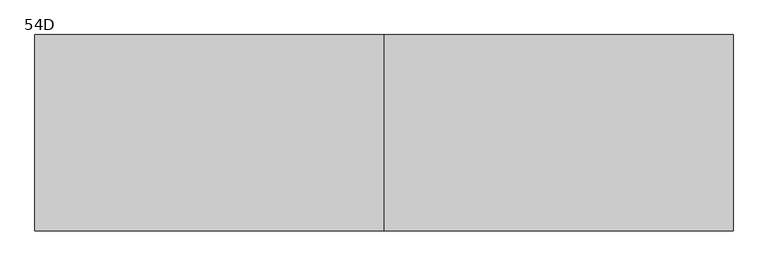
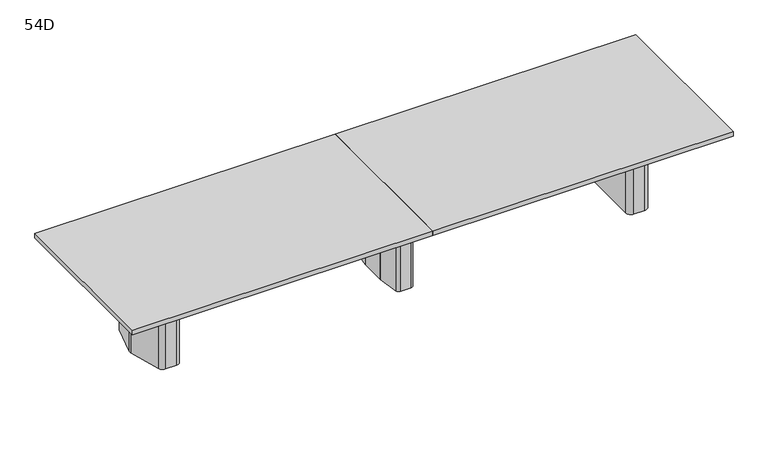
"""IFC4 building model written with IfcOpenShell, lengths in millimetres: furniture geometry, Coalesse_AM_Table_Conference_ETable2_Rectangular_16ft_ThreeBase : 54D."""

from ifc_helpers import new_model, si_unit, frame, origin, place, context, project, spatial, polyline, circle_curve, outline, extrude, source, transform, mapped, element, save
from ifc_brep_helpers import plane_surface, cylinder_surface, revolved_surface, advanced_brep


def furniture_54d_2968b999(model_context):
    return source(origin(), model_context, "Body", "SolidModel", [
        advanced_brep(
        [(35.71875, 206.375, 3.175), (10.31875, 231.775, 3.175), (-10.31875, 231.775, 3.175), (-35.71875, 206.375, 3.175), (-35.71875, -206.375, 3.175), (-10.31875, -231.775, 3.175), (10.31875, -231.775, 3.175), (35.71875, -206.375, 3.175), (-61.11875, 206.375, 0.0), (-10.31875, 257.175, 0.0), (10.31875, 257.175, 0.0), (61.11875, 206.375, 0.0), (61.11875, -206.375, 0.0), (10.31875, -257.175, 0.0), (-10.31875, -257.175, 0.0), (-61.11875, -206.375, 0.0), (-61.11875, -206.375, 3.175), (-61.11875, 206.375, 3.175), (-10.31875, -257.175, 3.175), (10.31875, -257.175, 3.175), (61.11875, -206.375, 3.175), (61.11875, 206.375, 3.175), (10.31875, 257.175, 3.175), (-10.31875, 257.175, 3.175), (-92.6215974, 106.2976848, 698.5), (-92.86875, 102.7629613, 698.5), (-92.86875, -102.7629613, 698.5), (-92.6215974, -106.2976848, 698.5), (-67.7988375, -282.9347235, 698.5), (-42.6459902, -304.8, 698.5), (42.6459902, -304.8, 698.5), (67.7988375, -282.9347235, 698.5), (92.6215974, -106.2976848, 698.5), (92.86875, -102.7629613, 698.5), (92.86875, 102.7629613, 698.5), (92.6215974, 106.2976848, 698.5), (67.7988375, 282.9347235, 698.5), (42.6459902, 304.8, 698.5), (-42.6459902, 304.8, 698.5), (-67.7988375, 282.9347235, 698.5), (10.31875, 231.775, 698.5), (35.71875, 206.375, 698.5), (35.71875, -206.375, 698.5), (10.31875, -231.775, 698.5), (-10.31875, -231.775, 698.5), (-35.71875, -206.375, 698.5), (-35.71875, 206.375, 698.5), (-10.31875, 231.775, 698.5), (-92.6215974, 106.2976848, 3.175), (-67.7988375, 282.9347235, 3.175), (-42.6459902, 304.8, 3.175), (42.6459902, 304.8, 3.175), (67.7988375, 282.9347235, 3.175), (92.6215974, 106.2976848, 3.175), (92.86875, 102.7629613, 3.175), (92.86875, -102.7629613, 3.175), (92.6215974, -106.2976848, 3.175), (67.7988375, -282.9347235, 3.175), (42.6459902, -304.8, 3.175), (-42.6459902, -304.8, 3.175), (-67.7988375, -282.9347235, 3.175), (-92.6215974, -106.2976848, 3.175), (-92.86875, -102.7629613, 3.175), (-92.86875, 102.7629613, 3.175)],
        [
            (0, 1, circle_curve(frame((10.31875, 206.375, 3.175), z_axis=(0.0, 0.0, 1.0), x_axis=(1.0, 0.0, 0.0)), 25.4)),
            (1, 2),
            (2, 3, circle_curve(frame((-10.31875, 206.375, 3.175), z_axis=(0.0, 0.0, 1.0), x_axis=(1.0, 0.0, 0.0)), 25.4)),
            (3, 4),
            (4, 5, circle_curve(frame((-10.31875, -206.375, 3.175), z_axis=(0.0, 0.0, 1.0), x_axis=(1.0, 0.0, 0.0)), 25.4)),
            (5, 6),
            (6, 7, circle_curve(frame((10.31875, -206.375, 3.175), z_axis=(0.0, 0.0, 1.0), x_axis=(1.0, 0.0, 0.0)), 25.4)),
            (7, 0),
            (8, 9, circle_curve(frame((-10.31875, 206.375, 0.0), z_axis=(0.0, 0.0, -1.0), x_axis=(1.0, 0.0, 0.0)), 50.8)),
            (9, 10),
            (10, 11, circle_curve(frame((10.31875, 206.375, 0.0), z_axis=(0.0, 0.0, -1.0), x_axis=(1.0, 0.0, 0.0)), 50.8)),
            (11, 12),
            (12, 13, circle_curve(frame((10.31875, -206.375, 0.0), z_axis=(0.0, 0.0, -1.0), x_axis=(1.0, 0.0, 0.0)), 50.8)),
            (13, 14),
            (14, 15, circle_curve(frame((-10.31875, -206.375, 0.0), z_axis=(0.0, 0.0, -1.0), x_axis=(1.0, 0.0, 0.0)), 50.8)),
            (15, 8),
            (15, 16),
            (16, 17),
            (17, 8),
            (14, 18),
            (18, 16, circle_curve(frame((-10.31875, -206.375, 3.175), z_axis=(0.0, 0.0, -1.0), x_axis=(1.0, 0.0, 0.0)), 50.8)),
            (13, 19),
            (19, 18),
            (12, 20),
            (20, 19, circle_curve(frame((10.31875, -206.375, 3.175), z_axis=(0.0, 0.0, -1.0), x_axis=(1.0, 0.0, 0.0)), 50.8)),
            (11, 21),
            (21, 20),
            (10, 22),
            (22, 21, circle_curve(frame((10.31875, 206.375, 3.175), z_axis=(0.0, 0.0, -1.0), x_axis=(1.0, 0.0, 0.0)), 50.8)),
            (9, 23),
            (23, 22),
            (17, 23, circle_curve(frame((-10.31875, 206.375, 3.175), z_axis=(0.0, 0.0, -1.0), x_axis=(1.0, 0.0, 0.0)), 50.8)),
            (24, 25, circle_curve(frame((-67.46875, 102.7629613, 698.5), z_axis=(0.0, 0.0, 1.0), x_axis=(1.0, 0.0, 0.0)), 25.4)),
            (25, 26),
            (26, 27, circle_curve(frame((-67.46875, -102.7629613, 698.5), z_axis=(0.0, 0.0, 1.0), x_axis=(1.0, 0.0, 0.0)), 25.4)),
            (27, 28),
            (28, 29, circle_curve(frame((-42.6459902, -279.4, 698.5), z_axis=(0.0, 0.0, 1.0), x_axis=(1.0, 0.0, 0.0)), 25.4)),
            (29, 30),
            (30, 31, circle_curve(frame((42.6459902, -279.4, 698.5), z_axis=(0.0, 0.0, 1.0), x_axis=(1.0, 0.0, 0.0)), 25.4)),
            (31, 32),
            (32, 33, circle_curve(frame((67.46875, -102.7629613, 698.5), z_axis=(0.0, 0.0, 1.0), x_axis=(1.0, 0.0, 0.0)), 25.4)),
            (33, 34),
            (34, 35, circle_curve(frame((67.46875, 102.7629613, 698.5), z_axis=(0.0, 0.0, 1.0), x_axis=(1.0, 0.0, 0.0)), 25.4)),
            (35, 36),
            (36, 37, circle_curve(frame((42.6459902, 279.4, 698.5), z_axis=(0.0, 0.0, 1.0), x_axis=(1.0, 0.0, 0.0)), 25.4)),
            (37, 38),
            (38, 39, circle_curve(frame((-42.6459902, 279.4, 698.5), z_axis=(0.0, 0.0, 1.0), x_axis=(1.0, 0.0, 0.0)), 25.4)),
            (39, 24),
            (40, 41, circle_curve(frame((10.31875, 206.375, 698.5), z_axis=(0.0, 0.0, -1.0), x_axis=(1.0, 0.0, 0.0)), 25.4)),
            (41, 42),
            (42, 43, circle_curve(frame((10.31875, -206.375, 698.5), z_axis=(0.0, 0.0, -1.0), x_axis=(1.0, 0.0, 0.0)), 25.4)),
            (43, 44),
            (44, 45, circle_curve(frame((-10.31875, -206.375, 698.5), z_axis=(0.0, 0.0, -1.0), x_axis=(1.0, 0.0, 0.0)), 25.4)),
            (45, 46),
            (46, 47, circle_curve(frame((-10.31875, 206.375, 698.5), z_axis=(0.0, 0.0, -1.0), x_axis=(1.0, 0.0, 0.0)), 25.4)),
            (47, 40),
            (48, 49),
            (49, 50, circle_curve(frame((-42.6459902, 279.4, 3.175), z_axis=(0.0, 0.0, -1.0), x_axis=(1.0, 0.0, 0.0)), 25.4)),
            (50, 51),
            (51, 52, circle_curve(frame((42.6459902, 279.4, 3.175), z_axis=(0.0, 0.0, -1.0), x_axis=(1.0, 0.0, 0.0)), 25.4)),
            (52, 53),
            (53, 54, circle_curve(frame((67.46875, 102.7629613, 3.175), z_axis=(0.0, 0.0, -1.0), x_axis=(1.0, 0.0, 0.0)), 25.4)),
            (54, 55),
            (55, 56, circle_curve(frame((67.46875, -102.7629613, 3.175), z_axis=(0.0, 0.0, -1.0), x_axis=(1.0, 0.0, 0.0)), 25.4)),
            (56, 57),
            (57, 58, circle_curve(frame((42.6459902, -279.4, 3.175), z_axis=(0.0, 0.0, -1.0), x_axis=(1.0, 0.0, 0.0)), 25.4)),
            (58, 59),
            (59, 60, circle_curve(frame((-42.6459902, -279.4, 3.175), z_axis=(0.0, 0.0, -1.0), x_axis=(1.0, 0.0, 0.0)), 25.4)),
            (60, 61),
            (61, 62, circle_curve(frame((-67.46875, -102.7629613, 3.175), z_axis=(0.0, 0.0, -1.0), x_axis=(1.0, 0.0, 0.0)), 25.4)),
            (62, 63),
            (63, 48, circle_curve(frame((-67.46875, 102.7629613, 3.175), z_axis=(0.0, 0.0, -1.0), x_axis=(1.0, 0.0, 0.0)), 25.4)),
            (24, 48),
            (63, 25),
            (62, 26),
            (61, 27),
            (60, 28),
            (59, 29),
            (58, 30),
            (57, 31),
            (56, 32),
            (55, 33),
            (54, 34),
            (53, 35),
            (52, 36),
            (51, 37),
            (50, 38),
            (49, 39),
            (40, 1),
            (0, 41),
            (7, 42),
            (6, 43),
            (5, 44),
            (4, 45),
            (3, 46),
            (2, 47),
        ],
        [
            plane_surface(frame((-61.11875, -206.375, 3.175), z_axis=(0.0, 0.0, 1.0), x_axis=(0.0, -1.0, 0.0))),
            plane_surface(frame((-61.11875, -206.375, 0.0), z_axis=(0.0, 0.0, -1.0), x_axis=(0.0, 1.0, 0.0))),
            plane_surface(frame((-61.11875, 206.375, 3.175), z_axis=(-1.0, 0.0, 0.0), x_axis=(0.0, 0.0, -1.0))),
            cylinder_surface(frame((-10.31875, -206.375, 0.0), z_axis=(0.0, 0.0, 1.0), x_axis=(1.0, 0.0, 0.0)), 50.8),
            plane_surface(frame((-10.31875, -257.175, 3.175), z_axis=(0.0, -1.0, 0.0), x_axis=(0.0, 0.0, -1.0))),
            cylinder_surface(frame((10.31875, -206.375, 0.0), z_axis=(0.0, 0.0, 1.0), x_axis=(1.0, 0.0, 0.0)), 50.8),
            plane_surface(frame((61.11875, -206.375, 3.175), z_axis=(1.0, 0.0, 0.0), x_axis=(0.0, 0.0, -1.0))),
            cylinder_surface(frame((10.31875, 206.375, 0.0), z_axis=(0.0, 0.0, 1.0), x_axis=(1.0, 0.0, 0.0)), 50.8),
            plane_surface(frame((10.31875, 257.175, 3.175), z_axis=(0.0, 1.0, 0.0), x_axis=(0.0, 0.0, -1.0))),
            cylinder_surface(frame((-10.31875, 206.375, 0.0), z_axis=(0.0, 0.0, 1.0), x_axis=(1.0, 0.0, 0.0)), 50.8),
            plane_surface(frame((-42.06875, 102.7629613, 698.5), z_axis=(0.0, 0.0, 1.0), x_axis=(0.0, 1.0, 0.0))),
            plane_surface(frame((-42.06875, 102.7629613, 3.175), z_axis=(0.0, 0.0, -1.0), x_axis=(0.0, -1.0, 0.0))),
            cylinder_surface(frame((-67.46875, 102.7629613, 3.175), z_axis=(0.0, 0.0, 1.0), x_axis=(1.0, 0.0, 0.0)), 25.4),
            plane_surface(frame((-92.86875, 102.7629613, 698.5), z_axis=(-1.0, 0.0, 0.0), x_axis=(0.0, 0.0, -1.0))),
            cylinder_surface(frame((-67.46875, -102.7629613, 3.175), z_axis=(0.0, 0.0, 1.0), x_axis=(1.0, 0.0, 0.0)), 25.4),
            plane_surface(frame((-92.6215974, -106.2976848, 698.5), z_axis=(-0.9902695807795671, -0.13916234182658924, 0.0), x_axis=(0.0, 0.0, -1.0))),
            cylinder_surface(frame((-42.6459902, -279.4, 3.175), z_axis=(0.0, 0.0, 1.0), x_axis=(1.0, 0.0, 0.0)), 25.4),
            plane_surface(frame((-42.6459902, -304.8, 698.5), z_axis=(0.0, -1.0, 0.0), x_axis=(0.0, 0.0, -1.0))),
            cylinder_surface(frame((42.6459902, -279.4, 3.175), z_axis=(0.0, 0.0, 1.0), x_axis=(1.0, 0.0, 0.0)), 25.4),
            plane_surface(frame((67.7988375, -282.9347235, 698.5), z_axis=(0.9902695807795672, -0.13916234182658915, 0.0), x_axis=(0.0, 0.0, -1.0))),
            cylinder_surface(frame((67.46875, -102.7629613, 3.175), z_axis=(0.0, 0.0, 1.0), x_axis=(1.0, 0.0, 0.0)), 25.4),
            plane_surface(frame((92.86875, -102.7629613, 698.5), z_axis=(1.0, 0.0, 0.0), x_axis=(0.0, 0.0, -1.0))),
            cylinder_surface(frame((67.46875, 102.7629613, 3.175), z_axis=(0.0, 0.0, 1.0), x_axis=(1.0, 0.0, 0.0)), 25.4),
            plane_surface(frame((92.6215974, 106.2976848, 698.5), z_axis=(0.9902695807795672, 0.1391623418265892, 0.0), x_axis=(0.0, 0.0, -1.0))),
            cylinder_surface(frame((42.6459902, 279.4, 3.175), z_axis=(0.0, 0.0, 1.0), x_axis=(1.0, 0.0, 0.0)), 25.4),
            plane_surface(frame((42.6459902, 304.8, 698.5), z_axis=(0.0, 1.0, 0.0), x_axis=(0.0, 0.0, -1.0))),
            cylinder_surface(frame((-42.6459902, 279.4, 3.175), z_axis=(0.0, 0.0, 1.0), x_axis=(1.0, 0.0, 0.0)), 25.4),
            plane_surface(frame((-67.7988375, 282.9347235, 698.5), z_axis=(-0.9902695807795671, 0.13916234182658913, 0.0), x_axis=(0.0, 0.0, -1.0))),
            revolved_surface(polyline([(35.71875, 206.375, 3.175), (35.71875, 206.375, 698.5)]), (10.31875, 206.375, 0.0), (0.0, 0.0, -1.0)),
            plane_surface(frame((35.71875, 206.375, 698.5), z_axis=(-1.0, 0.0, 0.0), x_axis=(0.0, 0.0, -1.0))),
            revolved_surface(polyline([(35.71875, -206.375, 3.175), (35.71875, -206.375, 698.5)]), (10.31875, -206.375, 0.0), (0.0, 0.0, -1.0)),
            plane_surface(frame((10.31875, -231.775, 698.5), z_axis=(0.0, 1.0, 0.0), x_axis=(0.0, 0.0, -1.0))),
            revolved_surface(polyline([(15.081249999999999, -206.375, 3.175), (15.081249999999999, -206.375, 698.5)]), (-10.31875, -206.375, 0.0), (0.0, 0.0, -1.0)),
            plane_surface(frame((-35.71875, -206.375, 698.5), z_axis=(1.0, 0.0, 0.0), x_axis=(0.0, 0.0, -1.0))),
            revolved_surface(polyline([(15.081249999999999, 206.375, 3.175), (15.081249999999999, 206.375, 698.5)]), (-10.31875, 206.375, 0.0), (0.0, 0.0, -1.0)),
            plane_surface(frame((-10.31875, 231.775, 698.5), z_axis=(0.0, -1.0, 0.0), x_axis=(0.0, 0.0, -1.0))),
        ],
        [
            (0, [[1, 2, 3, 4, 5, 6, 7, 8]]),
            (1, [[9, 10, 11, 12, 13, 14, 15, 16]]),
            (2, [[-16, 17, 18, 19]]),
            (3, [[-15, 20, 21, -17]]),
            (4, [[-14, 22, 23, -20]]),
            (5, [[-13, 24, 25, -22]]),
            (6, [[-12, 26, 27, -24]]),
            (7, [[-11, 28, 29, -26]]),
            (8, [[-10, 30, 31, -28]]),
            (9, [[-9, -19, 32, -30]]),
            (10, [[33, 34, 35, 36, 37, 38, 39, 40, 41, 42, 43, 44, 45, 46, 47, 48], [49, 50, 51, 52, 53, 54, 55, 56]]),
            (11, [[57, 58, 59, 60, 61, 62, 63, 64, 65, 66, 67, 68, 69, 70, 71, 72], [-18, -21, -23, -25, -27, -29, -31, -32]]),
            (12, [[-33, 73, -72, 74]]),
            (13, [[-34, -74, -71, 75]]),
            (14, [[-35, -75, -70, 76]]),
            (15, [[-36, -76, -69, 77]]),
            (16, [[-37, -77, -68, 78]]),
            (17, [[-38, -78, -67, 79]]),
            (18, [[-39, -79, -66, 80]]),
            (19, [[-40, -80, -65, 81]]),
            (20, [[-41, -81, -64, 82]]),
            (21, [[-42, -82, -63, 83]]),
            (22, [[-43, -83, -62, 84]]),
            (23, [[-44, -84, -61, 85]]),
            (24, [[-45, -85, -60, 86]]),
            (25, [[-46, -86, -59, 87]]),
            (26, [[-47, -87, -58, 88]]),
            (27, [[-48, -88, -57, -73]]),
            (28, [[-49, 89, -1, 90]]),
            (29, [[-50, -90, -8, 91]]),
            (30, [[-51, -91, -7, 92]]),
            (31, [[-52, -92, -6, 93]]),
            (32, [[-53, -93, -5, 94]]),
            (33, [[-54, -94, -4, 95]]),
            (34, [[-55, -95, -3, 96]]),
            (35, [[-56, -96, -2, -89]]),
        ],
    ),
        advanced_brep(
        [(1979.824548, 274.2093613, 698.5), (1939.9579246, 304.8, 698.5), (1851.025, 304.8, 698.5), (1809.75, 263.525, 698.5), (1809.75, -263.525, 698.5), (1851.025, -304.8, 698.5), (1939.9579246, -304.8, 698.5), (1979.824548, -274.2093613, 698.5), (2050.4503901, -10.6333708, 698.5), (2050.4503901, 10.6333708, 698.5), (1847.85, -206.375, 698.5), (1847.85, 206.375, 698.5), (1873.25, 231.775, 698.5), (1932.2608422, 231.775, 698.5), (1956.795338, 212.9490792, 698.5), (1995.4875, 68.54974, 698.5), (1995.4875, -68.54974, 698.5), (1956.795338, -212.9490792, 698.5), (1932.2608422, -231.775, 698.5), (1873.25, -231.775, 698.5), (1979.824548, 274.2093613, 3.175), (2050.4503901, 10.6333708, 3.175), (2050.4503901, -10.6333708, 3.175), (1979.824548, -274.2093613, 3.175), (1939.9579246, -304.8, 3.175), (1851.025, -304.8, 3.175), (1809.75, -263.525, 3.175), (1809.75, 263.525, 3.175), (1851.025, 304.8, 3.175), (1939.9579246, 304.8, 3.175), (1969.0625859, 216.2361187, 3.175), (1932.2608422, 244.475, 3.175), (1873.25, 244.475, 3.175), (1835.15, 206.375, 3.175), (1835.15, -206.375, 3.175), (1873.25, -244.475, 3.175), (1932.2608422, -244.475, 3.175), (1969.0625859, -216.2361187, 3.175), (2008.1875, -70.2217466, 3.175), (2008.1875, 70.2217466, 3.175), (1873.25, -231.775, 3.175), (1847.85, -206.375, 3.175), (1932.2608422, -231.775, 3.175), (1956.795338, -212.9490792, 3.175), (1995.4875, -68.54974, 3.175), (1995.4875, 68.54974, 3.175), (1956.795338, 212.9490792, 3.175), (1932.2608422, 231.775, 3.175), (1873.25, 231.775, 3.175), (1847.85, 206.375, 3.175), (1969.0625859, 216.2361187, 0.0), (2008.1875, 70.2217466, 0.0), (2008.1875, -70.2217466, 0.0), (1969.0625859, -216.2361187, 0.0), (1932.2608422, -244.475, 0.0), (1873.25, -244.475, 0.0), (1835.15, -206.375, 0.0), (1835.15, 206.375, 0.0), (1873.25, 244.475, 0.0), (1932.2608422, 244.475, 0.0)],
        [
            (0, 1, circle_curve(frame((1939.9579246, 263.5270004, 698.5), z_axis=(0.0, 0.0, 1.0), x_axis=(-1.0, 0.0, 0.0)), 41.2729996)),
            (1, 2),
            (2, 3, circle_curve(frame((1851.025, 263.525, 698.5), z_axis=(0.0, 0.0, 1.0), x_axis=(-1.0, 0.0, 0.0)), 41.275)),
            (3, 4),
            (4, 5, circle_curve(frame((1851.025, -263.525, 698.5), z_axis=(0.0, 0.0, 1.0), x_axis=(-1.0, 0.0, 0.0)), 41.275)),
            (5, 6),
            (6, 7, circle_curve(frame((1939.9579246, -263.5270004, 698.5), z_axis=(0.0, 0.0, 1.0), x_axis=(-1.0, 0.0, 0.0)), 41.2729996)),
            (7, 8),
            (8, 9, circle_curve(frame((2010.7665979, 0.0, 698.5), z_axis=(0.0, 0.0, 1.0), x_axis=(-1.0, 0.0, 0.0)), 41.0837187)),
            (9, 0),
            (10, 11),
            (11, 12, circle_curve(frame((1873.25, 206.375, 698.5), z_axis=(0.0, 0.0, -1.0), x_axis=(-1.0, 0.0, 0.0)), 25.4)),
            (12, 13),
            (13, 14, circle_curve(frame((1932.2608422, 206.375, 698.5), z_axis=(0.0, 0.0, -1.0), x_axis=(-1.0, 0.0, 0.0)), 25.4)),
            (14, 15),
            (15, 16),
            (16, 17),
            (17, 18, circle_curve(frame((1932.2608422, -206.375, 698.5), z_axis=(0.0, 0.0, -1.0), x_axis=(-1.0, 0.0, 0.0)), 25.4)),
            (18, 19),
            (19, 10, circle_curve(frame((1873.25, -206.375, 698.5), z_axis=(0.0, 0.0, -1.0), x_axis=(-1.0, 0.0, 0.0)), 25.4)),
            (20, 21),
            (21, 22, circle_curve(frame((2010.7665979, 0.0, 3.175), z_axis=(0.0, 0.0, -1.0), x_axis=(-1.0, 0.0, 0.0)), 41.0837187)),
            (22, 23),
            (23, 24, circle_curve(frame((1939.9579246, -263.5270004, 3.175), z_axis=(0.0, 0.0, -1.0), x_axis=(-1.0, 0.0, 0.0)), 41.2729996)),
            (24, 25),
            (25, 26, circle_curve(frame((1851.025, -263.525, 3.175), z_axis=(0.0, 0.0, -1.0), x_axis=(-1.0, 0.0, 0.0)), 41.275)),
            (26, 27),
            (27, 28, circle_curve(frame((1851.025, 263.525, 3.175), z_axis=(0.0, 0.0, -1.0), x_axis=(-1.0, 0.0, 0.0)), 41.275)),
            (28, 29),
            (29, 20, circle_curve(frame((1939.9579246, 263.5270004, 3.175), z_axis=(0.0, 0.0, -1.0), x_axis=(-1.0, 0.0, 0.0)), 41.2729996)),
            (30, 31, circle_curve(frame((1932.2608422, 206.375, 3.175), z_axis=(0.0, 0.0, 1.0), x_axis=(-1.0, 0.0, 0.0)), 38.1)),
            (31, 32),
            (32, 33, circle_curve(frame((1873.25, 206.375, 3.175), z_axis=(0.0, 0.0, 1.0), x_axis=(-1.0, 0.0, 0.0)), 38.1)),
            (33, 34),
            (34, 35, circle_curve(frame((1873.25, -206.375, 3.175), z_axis=(0.0, 0.0, 1.0), x_axis=(-1.0, 0.0, 0.0)), 38.1)),
            (35, 36),
            (36, 37, circle_curve(frame((1932.2608422, -206.375, 3.175), z_axis=(0.0, 0.0, 1.0), x_axis=(-1.0, 0.0, 0.0)), 38.1)),
            (37, 38),
            (38, 39),
            (39, 30),
            (9, 21),
            (20, 0),
            (8, 22),
            (7, 23),
            (6, 24),
            (5, 25),
            (4, 26),
            (3, 27),
            (2, 28),
            (1, 29),
            (19, 40),
            (40, 41, circle_curve(frame((1873.25, -206.375, 3.175), z_axis=(0.0, 0.0, -1.0), x_axis=(-1.0, 0.0, 0.0)), 25.4)),
            (41, 10),
            (18, 42),
            (42, 40),
            (17, 43),
            (43, 42, circle_curve(frame((1932.2608422, -206.375, 3.175), z_axis=(0.0, 0.0, -1.0), x_axis=(-1.0, 0.0, 0.0)), 25.4)),
            (16, 44),
            (44, 43),
            (15, 45),
            (45, 44),
            (14, 46),
            (46, 45),
            (13, 47),
            (47, 46, circle_curve(frame((1932.2608422, 206.375, 3.175), z_axis=(0.0, 0.0, -1.0), x_axis=(-1.0, 0.0, 0.0)), 25.4)),
            (12, 48),
            (48, 47),
            (11, 49),
            (49, 48, circle_curve(frame((1873.25, 206.375, 3.175), z_axis=(0.0, 0.0, -1.0), x_axis=(-1.0, 0.0, 0.0)), 25.4)),
            (41, 49),
            (50, 51),
            (51, 52),
            (52, 53),
            (53, 54, circle_curve(frame((1932.2608422, -206.375, 0.0), z_axis=(0.0, 0.0, -1.0), x_axis=(-1.0, 0.0, 0.0)), 38.1)),
            (54, 55),
            (55, 56, circle_curve(frame((1873.25, -206.375, 0.0), z_axis=(0.0, 0.0, -1.0), x_axis=(-1.0, 0.0, 0.0)), 38.1)),
            (56, 57),
            (57, 58, circle_curve(frame((1873.25, 206.375, 0.0), z_axis=(0.0, 0.0, -1.0), x_axis=(-1.0, 0.0, 0.0)), 38.1)),
            (58, 59),
            (59, 50, circle_curve(frame((1932.2608422, 206.375, 0.0), z_axis=(0.0, 0.0, -1.0), x_axis=(-1.0, 0.0, 0.0)), 38.1)),
            (50, 30),
            (39, 51),
            (38, 52),
            (37, 53),
            (36, 54),
            (35, 55),
            (34, 56),
            (33, 57),
            (32, 58),
            (31, 59),
        ],
        [
            plane_surface(frame((2050.4374275, 10.6817473, 698.5), z_axis=(0.0, 0.0, 1.0000000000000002), x_axis=(0.25882201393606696, -0.9659250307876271, 0.0))),
            plane_surface(frame((2050.4374275, 10.6817473, 3.175), z_axis=(0.0, 0.0, -1.0000000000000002), x_axis=(-0.25882201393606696, 0.9659250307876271, 0.0))),
            plane_surface(frame((1979.824548, 274.2093613, 698.5), z_axis=(0.9659250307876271, 0.25882201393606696, 0.0), x_axis=(0.0, 0.0, -1.0))),
            cylinder_surface(frame((2010.7665979, 0.0, 3.175), z_axis=(0.0, 0.0, 1.0), x_axis=(-1.0, 0.0, 0.0)), 41.0837187),
            plane_surface(frame((2050.4503901, -10.6333708, 698.5), z_axis=(0.9659250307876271, -0.2588220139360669, 0.0), x_axis=(0.0, 0.0, -1.0))),
            cylinder_surface(frame((1939.9579246, -263.5270004, 3.175), z_axis=(0.0, 0.0, 1.0), x_axis=(-1.0, 0.0, 0.0)), 41.2729996),
            plane_surface(frame((1939.9579246, -304.8, 698.5), z_axis=(0.0, -1.0, 0.0), x_axis=(0.0, 0.0, -1.0))),
            cylinder_surface(frame((1851.025, -263.525, 3.175), z_axis=(0.0, 0.0, 1.0), x_axis=(-1.0, 0.0, 0.0)), 41.275),
            plane_surface(frame((1809.75, -263.525, 698.5), z_axis=(-1.0, 0.0, 0.0), x_axis=(0.0, 0.0, -1.0))),
            cylinder_surface(frame((1851.025, 263.525, 3.175), z_axis=(0.0, 0.0, 1.0), x_axis=(-1.0, 0.0, 0.0)), 41.275),
            plane_surface(frame((1851.025, 304.8, 698.5), z_axis=(0.0, 1.0, 0.0), x_axis=(0.0, 0.0, -1.0))),
            cylinder_surface(frame((1939.9579246, 263.5270004, 3.175), z_axis=(0.0, 0.0, 1.0), x_axis=(-1.0, 0.0, 0.0)), 41.2729996),
            revolved_surface(polyline([(1847.85, -206.375, 3.175), (1847.85, -206.375, 698.5)]), (1873.25, -206.375, 0.0), (0.0, 0.0, -1.0)),
            plane_surface(frame((1873.25, -231.775, 698.5), z_axis=(0.0, 1.0, 0.0), x_axis=(0.0, 0.0, -1.0))),
            revolved_surface(polyline([(1906.8608422, -206.375, 3.175), (1906.8608422, -206.375, 698.5)]), (1932.2608422, -206.375, 0.0), (0.0, 0.0, -1.0)),
            plane_surface(frame((1956.795338, -212.9490792, 698.5), z_axis=(-0.9659250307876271, 0.2588220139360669, 0.0), x_axis=(0.0, 0.0, -1.0))),
            plane_surface(frame((1995.4875, -68.54974, 698.5), z_axis=(-1.0, 0.0, 0.0), x_axis=(0.0, 0.0, -1.0))),
            plane_surface(frame((1995.4875, 68.54974, 698.5), z_axis=(-0.9659250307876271, -0.25882201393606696, 0.0), x_axis=(0.0, 0.0, -1.0))),
            revolved_surface(polyline([(1906.8608422, 206.375, 3.175), (1906.8608422, 206.375, 698.5)]), (1932.2608422, 206.375, 0.0), (0.0, 0.0, -1.0)),
            plane_surface(frame((1932.2608422, 231.775, 698.5), z_axis=(0.0, -1.0, 0.0), x_axis=(0.0, 0.0, -1.0))),
            revolved_surface(polyline([(1847.85, 206.375, 3.175), (1847.85, 206.375, 698.5)]), (1873.25, 206.375, 0.0), (0.0, 0.0, -1.0)),
            plane_surface(frame((1847.85, 206.375, 698.5), z_axis=(1.0, 0.0, 0.0), x_axis=(0.0, 0.0, -1.0))),
            plane_surface(frame((2007.7547479, 71.8367796, 3.175), z_axis=(0.0, 0.0, 1.0), x_axis=(0.25882201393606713, -0.965925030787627, 0.0))),
            plane_surface(frame((2007.7547479, 71.8367796, 0.0), z_axis=(0.0, 0.0, -1.0), x_axis=(-0.25882201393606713, 0.965925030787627, 0.0))),
            plane_surface(frame((1969.0625859, 216.2361187, 3.175), z_axis=(0.965925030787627, 0.25882201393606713, 0.0), x_axis=(0.0, 0.0, -1.0))),
            plane_surface(frame((2008.1875, 70.2217466, 3.175), z_axis=(1.0, 0.0, 0.0), x_axis=(0.0, 0.0, -1.0))),
            plane_surface(frame((2008.1875, -70.2217466, 3.175), z_axis=(0.9659250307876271, -0.2588220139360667, 0.0), x_axis=(0.0, 0.0, -1.0))),
            cylinder_surface(frame((1932.2608422, -206.375, 0.0), z_axis=(0.0, 0.0, 1.0), x_axis=(-1.0, 0.0, 0.0)), 38.1),
            plane_surface(frame((1932.2608422, -244.475, 3.175), z_axis=(0.0, -1.0, 0.0), x_axis=(0.0, 0.0, -1.0))),
            cylinder_surface(frame((1873.25, -206.375, 0.0), z_axis=(0.0, 0.0, 1.0), x_axis=(-1.0, 0.0, 0.0)), 38.1),
            plane_surface(frame((1835.15, -206.375, 3.175), z_axis=(-1.0, 0.0, 0.0), x_axis=(0.0, 0.0, -1.0))),
            cylinder_surface(frame((1873.25, 206.375, 0.0), z_axis=(0.0, 0.0, 1.0), x_axis=(-1.0, 0.0, 0.0)), 38.1),
            plane_surface(frame((1873.25, 244.475, 3.175), z_axis=(0.0, 1.0, 0.0), x_axis=(0.0, 0.0, -1.0))),
            cylinder_surface(frame((1932.2608422, 206.375, 0.0), z_axis=(0.0, 0.0, 1.0), x_axis=(-1.0, 0.0, 0.0)), 38.1),
        ],
        [
            (0, [[1, 2, 3, 4, 5, 6, 7, 8, 9, 10], [11, 12, 13, 14, 15, 16, 17, 18, 19, 20]]),
            (1, [[21, 22, 23, 24, 25, 26, 27, 28, 29, 30], [31, 32, 33, 34, 35, 36, 37, 38, 39, 40]]),
            (2, [[41, -21, 42, -10]]),
            (3, [[43, -22, -41, -9]]),
            (4, [[44, -23, -43, -8]]),
            (5, [[45, -24, -44, -7]]),
            (6, [[46, -25, -45, -6]]),
            (7, [[47, -26, -46, -5]]),
            (8, [[48, -27, -47, -4]]),
            (9, [[49, -28, -48, -3]]),
            (10, [[50, -29, -49, -2]]),
            (11, [[-42, -30, -50, -1]]),
            (12, [[51, 52, 53, -20]]),
            (13, [[54, 55, -51, -19]]),
            (14, [[56, 57, -54, -18]]),
            (15, [[58, 59, -56, -17]]),
            (16, [[60, 61, -58, -16]]),
            (17, [[62, 63, -60, -15]]),
            (18, [[64, 65, -62, -14]]),
            (19, [[66, 67, -64, -13]]),
            (20, [[68, 69, -66, -12]]),
            (21, [[-53, 70, -68, -11]]),
            (22, [[-55, -57, -59, -61, -63, -65, -67, -69, -70, -52]]),
            (23, [[71, 72, 73, 74, 75, 76, 77, 78, 79, 80]]),
            (24, [[81, -40, 82, -71]]),
            (25, [[-82, -39, 83, -72]]),
            (26, [[-83, -38, 84, -73]]),
            (27, [[-84, -37, 85, -74]]),
            (28, [[-85, -36, 86, -75]]),
            (29, [[-86, -35, 87, -76]]),
            (30, [[-87, -34, 88, -77]]),
            (31, [[-88, -33, 89, -78]]),
            (32, [[-89, -32, 90, -79]]),
            (33, [[-90, -31, -81, -80]]),
        ],
    ),
        advanced_brep(
        [(-1990.937048, 274.2093613, 698.5), (-2061.5628901, 10.6333708, 698.5), (-2061.5628901, -10.6333708, 698.5), (-1990.937048, -274.2093613, 698.5), (-1951.0704246, -304.8, 698.5), (-1862.1375, -304.8, 698.5), (-1820.8625, -263.525, 698.5), (-1820.8625, 263.525, 698.5), (-1862.1375, 304.8, 698.5), (-1951.0704246, 304.8, 698.5), (-1858.9625, -206.375, 698.5), (-1884.3625, -231.775, 698.5), (-1943.3733422, -231.775, 698.5), (-1967.907838, -212.9490792, 698.5), (-2006.6, -68.54974, 698.5), (-2006.6, 68.54974, 698.5), (-1967.907838, 212.9490792, 698.5), (-1943.3733422, 231.775, 698.5), (-1884.3625, 231.775, 698.5), (-1858.9625, 206.375, 698.5), (-1990.937048, 274.2093613, 3.175), (-1951.0704246, 304.8, 3.175), (-1862.1375, 304.8, 3.175), (-1820.8625, 263.525, 3.175), (-1820.8625, -263.525, 3.175), (-1862.1375, -304.8, 3.175), (-1951.0704246, -304.8, 3.175), (-1990.937048, -274.2093613, 3.175), (-2061.5628901, -10.6333708, 3.175), (-2061.5628901, 10.6333708, 3.175), (-1980.1750859, 216.2361187, 3.175), (-2019.3, 70.2217466, 3.175), (-2019.3, -70.2217466, 3.175), (-1980.1750859, -216.2361187, 3.175), (-1943.3733422, -244.475, 3.175), (-1884.3625, -244.475, 3.175), (-1846.2625, -206.375, 3.175), (-1846.2625, 206.375, 3.175), (-1884.3625, 244.475, 3.175), (-1943.3733422, 244.475, 3.175), (-1858.9625, -206.375, 3.175), (-1884.3625, -231.775, 3.175), (-1943.3733422, -231.775, 3.175), (-1967.907838, -212.9490792, 3.175), (-2006.6, -68.54974, 3.175), (-2006.6, 68.54974, 3.175), (-1967.907838, 212.9490792, 3.175), (-1943.3733422, 231.775, 3.175), (-1884.3625, 231.775, 3.175), (-1858.9625, 206.375, 3.175), (-1980.1750859, 216.2361187, 0.0), (-1943.3733422, 244.475, 0.0), (-1884.3625, 244.475, 0.0), (-1846.2625, 206.375, 0.0), (-1846.2625, -206.375, 0.0), (-1884.3625, -244.475, 0.0), (-1943.3733422, -244.475, 0.0), (-1980.1750859, -216.2361187, 0.0), (-2019.3, -70.2217466, 0.0), (-2019.3, 70.2217466, 0.0)],
        [
            (0, 1),
            (1, 2, circle_curve(frame((-2021.8790979, 0.0, 698.5), z_axis=(0.0, 0.0, 1.0), x_axis=(1.0, 0.0, 0.0)), 41.0837187)),
            (2, 3),
            (3, 4, circle_curve(frame((-1951.0704246, -263.5270004, 698.5), z_axis=(0.0, 0.0, 1.0), x_axis=(1.0, 0.0, 0.0)), 41.2729996)),
            (4, 5),
            (5, 6, circle_curve(frame((-1862.1375, -263.525, 698.5), z_axis=(0.0, 0.0, 1.0), x_axis=(1.0, 0.0, 0.0)), 41.275)),
            (6, 7),
            (7, 8, circle_curve(frame((-1862.1375, 263.525, 698.5), z_axis=(0.0, 0.0, 1.0), x_axis=(1.0, 0.0, 0.0)), 41.275)),
            (8, 9),
            (9, 0, circle_curve(frame((-1951.0704246, 263.5270004, 698.5), z_axis=(0.0, 0.0, 1.0), x_axis=(1.0, 0.0, 0.0)), 41.2729996)),
            (10, 11, circle_curve(frame((-1884.3625, -206.375, 698.5), z_axis=(0.0, 0.0, -1.0), x_axis=(1.0, 0.0, 0.0)), 25.4)),
            (11, 12),
            (12, 13, circle_curve(frame((-1943.3733422, -206.375, 698.5), z_axis=(0.0, 0.0, -1.0), x_axis=(1.0, 0.0, 0.0)), 25.4)),
            (13, 14),
            (14, 15),
            (15, 16),
            (16, 17, circle_curve(frame((-1943.3733422, 206.375, 698.5), z_axis=(0.0, 0.0, -1.0), x_axis=(1.0, 0.0, 0.0)), 25.4)),
            (17, 18),
            (18, 19, circle_curve(frame((-1884.3625, 206.375, 698.5), z_axis=(0.0, 0.0, -1.0), x_axis=(1.0, 0.0, 0.0)), 25.4)),
            (19, 10),
            (20, 21, circle_curve(frame((-1951.0704246, 263.5270004, 3.175), z_axis=(0.0, 0.0, -1.0), x_axis=(1.0, 0.0, 0.0)), 41.2729996)),
            (21, 22),
            (22, 23, circle_curve(frame((-1862.1375, 263.525, 3.175), z_axis=(0.0, 0.0, -1.0), x_axis=(1.0, 0.0, 0.0)), 41.275)),
            (23, 24),
            (24, 25, circle_curve(frame((-1862.1375, -263.525, 3.175), z_axis=(0.0, 0.0, -1.0), x_axis=(1.0, 0.0, 0.0)), 41.275)),
            (25, 26),
            (26, 27, circle_curve(frame((-1951.0704246, -263.5270004, 3.175), z_axis=(0.0, 0.0, -1.0), x_axis=(1.0, 0.0, 0.0)), 41.2729996)),
            (27, 28),
            (28, 29, circle_curve(frame((-2021.8790979, 0.0, 3.175), z_axis=(0.0, 0.0, -1.0), x_axis=(1.0, 0.0, 0.0)), 41.0837187)),
            (29, 20),
            (30, 31),
            (31, 32),
            (32, 33),
            (33, 34, circle_curve(frame((-1943.3733422, -206.375, 3.175), z_axis=(0.0, 0.0, 1.0), x_axis=(1.0, 0.0, 0.0)), 38.1)),
            (34, 35),
            (35, 36, circle_curve(frame((-1884.3625, -206.375, 3.175), z_axis=(0.0, 0.0, 1.0), x_axis=(1.0, 0.0, 0.0)), 38.1)),
            (36, 37),
            (37, 38, circle_curve(frame((-1884.3625, 206.375, 3.175), z_axis=(0.0, 0.0, 1.0), x_axis=(1.0, 0.0, 0.0)), 38.1)),
            (38, 39),
            (39, 30, circle_curve(frame((-1943.3733422, 206.375, 3.175), z_axis=(0.0, 0.0, 1.0), x_axis=(1.0, 0.0, 0.0)), 38.1)),
            (0, 20),
            (29, 1),
            (28, 2),
            (27, 3),
            (26, 4),
            (25, 5),
            (24, 6),
            (23, 7),
            (22, 8),
            (21, 9),
            (10, 40),
            (40, 41, circle_curve(frame((-1884.3625, -206.375, 3.175), z_axis=(0.0, 0.0, -1.0), x_axis=(1.0, 0.0, 0.0)), 25.4)),
            (41, 11),
            (41, 42),
            (42, 12),
            (42, 43, circle_curve(frame((-1943.3733422, -206.375, 3.175), z_axis=(0.0, 0.0, -1.0), x_axis=(1.0, 0.0, 0.0)), 25.4)),
            (43, 13),
            (43, 44),
            (44, 14),
            (44, 45),
            (45, 15),
            (45, 46),
            (46, 16),
            (46, 47, circle_curve(frame((-1943.3733422, 206.375, 3.175), z_axis=(0.0, 0.0, -1.0), x_axis=(1.0, 0.0, 0.0)), 25.4)),
            (47, 17),
            (47, 48),
            (48, 18),
            (48, 49, circle_curve(frame((-1884.3625, 206.375, 3.175), z_axis=(0.0, 0.0, -1.0), x_axis=(1.0, 0.0, 0.0)), 25.4)),
            (49, 19),
            (49, 40),
            (50, 51, circle_curve(frame((-1943.3733422, 206.375, 0.0), z_axis=(0.0, 0.0, -1.0), x_axis=(1.0, 0.0, 0.0)), 38.1)),
            (51, 52),
            (52, 53, circle_curve(frame((-1884.3625, 206.375, 0.0), z_axis=(0.0, 0.0, -1.0), x_axis=(1.0, 0.0, 0.0)), 38.1)),
            (53, 54),
            (54, 55, circle_curve(frame((-1884.3625, -206.375, 0.0), z_axis=(0.0, 0.0, -1.0), x_axis=(1.0, 0.0, 0.0)), 38.1)),
            (55, 56),
            (56, 57, circle_curve(frame((-1943.3733422, -206.375, 0.0), z_axis=(0.0, 0.0, -1.0), x_axis=(1.0, 0.0, 0.0)), 38.1)),
            (57, 58),
            (58, 59),
            (59, 50),
            (59, 31),
            (30, 50),
            (58, 32),
            (57, 33),
            (56, 34),
            (55, 35),
            (54, 36),
            (53, 37),
            (52, 38),
            (51, 39),
        ],
        [
            plane_surface(frame((-2061.5499275, 10.6817473, 698.5), z_axis=(0.0, 0.0, 1.0000000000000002), x_axis=(-0.25882201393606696, -0.9659250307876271, 0.0))),
            plane_surface(frame((-2061.5499275, 10.6817473, 3.175), z_axis=(0.0, 0.0, -1.0000000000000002), x_axis=(0.25882201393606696, 0.9659250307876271, 0.0))),
            plane_surface(frame((-1990.937048, 274.2093613, 698.5), z_axis=(-0.9659250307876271, 0.25882201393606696, 0.0), x_axis=(0.0, 0.0, -1.0))),
            cylinder_surface(frame((-2021.8790979, 0.0, 3.175), z_axis=(0.0, 0.0, 1.0), x_axis=(1.0, 0.0, 0.0)), 41.0837187),
            plane_surface(frame((-2061.5628901, -10.6333708, 698.5), z_axis=(-0.9659250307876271, -0.2588220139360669, 0.0), x_axis=(0.0, 0.0, -1.0))),
            cylinder_surface(frame((-1951.0704246, -263.5270004, 3.175), z_axis=(0.0, 0.0, 1.0), x_axis=(1.0, 0.0, 0.0)), 41.2729996),
            plane_surface(frame((-1951.0704246, -304.8, 698.5), z_axis=(0.0, -1.0, 0.0), x_axis=(0.0, 0.0, -1.0))),
            cylinder_surface(frame((-1862.1375, -263.525, 3.175), z_axis=(0.0, 0.0, 1.0), x_axis=(1.0, 0.0, 0.0)), 41.275),
            plane_surface(frame((-1820.8625, -263.525, 698.5), z_axis=(1.0, 0.0, 0.0), x_axis=(0.0, 0.0, -1.0))),
            cylinder_surface(frame((-1862.1375, 263.525, 3.175), z_axis=(0.0, 0.0, 1.0), x_axis=(1.0, 0.0, 0.0)), 41.275),
            plane_surface(frame((-1862.1375, 304.8, 698.5), z_axis=(0.0, 1.0, 0.0), x_axis=(0.0, 0.0, -1.0))),
            cylinder_surface(frame((-1951.0704246, 263.5270004, 3.175), z_axis=(0.0, 0.0, 1.0), x_axis=(1.0, 0.0, 0.0)), 41.2729996),
            revolved_surface(polyline([(-1858.9624999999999, -206.375, 3.175), (-1858.9624999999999, -206.375, 698.5)]), (-1884.3625, -206.375, 0.0), (0.0, 0.0, -1.0)),
            plane_surface(frame((-1884.3625, -231.775, 698.5), z_axis=(0.0, 1.0, 0.0), x_axis=(0.0, 0.0, -1.0))),
            revolved_surface(polyline([(-1917.9733422, -206.375, 3.175), (-1917.9733422, -206.375, 698.5)]), (-1943.3733422, -206.375, 0.0), (0.0, 0.0, -1.0)),
            plane_surface(frame((-1967.907838, -212.9490792, 698.5), z_axis=(0.9659250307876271, 0.2588220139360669, 0.0), x_axis=(0.0, 0.0, -1.0))),
            plane_surface(frame((-2006.6, -68.54974, 698.5), z_axis=(1.0, 0.0, 0.0), x_axis=(0.0, 0.0, -1.0))),
            plane_surface(frame((-2006.6, 68.54974, 698.5), z_axis=(0.9659250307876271, -0.25882201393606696, 0.0), x_axis=(0.0, 0.0, -1.0))),
            revolved_surface(polyline([(-1917.9733422, 206.375, 3.175), (-1917.9733422, 206.375, 698.5)]), (-1943.3733422, 206.375, 0.0), (0.0, 0.0, -1.0)),
            plane_surface(frame((-1943.3733422, 231.775, 698.5), z_axis=(0.0, -1.0, 0.0), x_axis=(0.0, 0.0, -1.0))),
            revolved_surface(polyline([(-1858.9624999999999, 206.375, 3.175), (-1858.9624999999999, 206.375, 698.5)]), (-1884.3625, 206.375, 0.0), (0.0, 0.0, -1.0)),
            plane_surface(frame((-1858.9625, 206.375, 698.5), z_axis=(-1.0, 0.0, 0.0), x_axis=(0.0, 0.0, -1.0))),
            plane_surface(frame((-2018.8672479, 71.8367796, 3.175), z_axis=(0.0, 0.0, 1.0), x_axis=(-0.25882201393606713, -0.965925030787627, 0.0))),
            plane_surface(frame((-2018.8672479, 71.8367796, 0.0), z_axis=(0.0, 0.0, -1.0), x_axis=(0.25882201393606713, 0.965925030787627, 0.0))),
            plane_surface(frame((-1980.1750859, 216.2361187, 3.175), z_axis=(-0.965925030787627, 0.25882201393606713, 0.0), x_axis=(0.0, 0.0, -1.0))),
            plane_surface(frame((-2019.3, 70.2217466, 3.175), z_axis=(-1.0, 0.0, 0.0), x_axis=(0.0, 0.0, -1.0))),
            plane_surface(frame((-2019.3, -70.2217466, 3.175), z_axis=(-0.9659250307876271, -0.2588220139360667, 0.0), x_axis=(0.0, 0.0, -1.0))),
            cylinder_surface(frame((-1943.3733422, -206.375, 0.0), z_axis=(0.0, 0.0, 1.0), x_axis=(1.0, 0.0, 0.0)), 38.1),
            plane_surface(frame((-1943.3733422, -244.475, 3.175), z_axis=(0.0, -1.0, 0.0), x_axis=(0.0, 0.0, -1.0))),
            cylinder_surface(frame((-1884.3625, -206.375, 0.0), z_axis=(0.0, 0.0, 1.0), x_axis=(1.0, 0.0, 0.0)), 38.1),
            plane_surface(frame((-1846.2625, -206.375, 3.175), z_axis=(1.0, 0.0, 0.0), x_axis=(0.0, 0.0, -1.0))),
            cylinder_surface(frame((-1884.3625, 206.375, 0.0), z_axis=(0.0, 0.0, 1.0), x_axis=(1.0, 0.0, 0.0)), 38.1),
            plane_surface(frame((-1884.3625, 244.475, 3.175), z_axis=(0.0, 1.0, 0.0), x_axis=(0.0, 0.0, -1.0))),
            cylinder_surface(frame((-1943.3733422, 206.375, 0.0), z_axis=(0.0, 0.0, 1.0), x_axis=(1.0, 0.0, 0.0)), 38.1),
        ],
        [
            (0, [[1, 2, 3, 4, 5, 6, 7, 8, 9, 10], [11, 12, 13, 14, 15, 16, 17, 18, 19, 20]]),
            (1, [[21, 22, 23, 24, 25, 26, 27, 28, 29, 30], [31, 32, 33, 34, 35, 36, 37, 38, 39, 40]]),
            (2, [[-1, 41, -30, 42]]),
            (3, [[-2, -42, -29, 43]]),
            (4, [[-3, -43, -28, 44]]),
            (5, [[-4, -44, -27, 45]]),
            (6, [[-5, -45, -26, 46]]),
            (7, [[-6, -46, -25, 47]]),
            (8, [[-7, -47, -24, 48]]),
            (9, [[-8, -48, -23, 49]]),
            (10, [[-9, -49, -22, 50]]),
            (11, [[-10, -50, -21, -41]]),
            (12, [[-11, 51, 52, 53]]),
            (13, [[-12, -53, 54, 55]]),
            (14, [[-13, -55, 56, 57]]),
            (15, [[-14, -57, 58, 59]]),
            (16, [[-15, -59, 60, 61]]),
            (17, [[-16, -61, 62, 63]]),
            (18, [[-17, -63, 64, 65]]),
            (19, [[-18, -65, 66, 67]]),
            (20, [[-19, -67, 68, 69]]),
            (21, [[-20, -69, 70, -51]]),
            (22, [[-52, -70, -68, -66, -64, -62, -60, -58, -56, -54]]),
            (23, [[71, 72, 73, 74, 75, 76, 77, 78, 79, 80]]),
            (24, [[-80, 81, -31, 82]]),
            (25, [[-79, 83, -32, -81]]),
            (26, [[-78, 84, -33, -83]]),
            (27, [[-77, 85, -34, -84]]),
            (28, [[-76, 86, -35, -85]]),
            (29, [[-75, 87, -36, -86]]),
            (30, [[-74, 88, -37, -87]]),
            (31, [[-73, 89, -38, -88]]),
            (32, [[-72, 90, -39, -89]]),
            (33, [[-71, -82, -40, -90]]),
        ],
    ),
        extrude(outline(polyline([(2438.4, 685.8), (2438.4, -685.8), (0.0, -685.8), (0.0, 685.8), (2438.4, 685.8)])), frame((0.0, 0.0, 698.5), z_axis=(0.0, 0.0, 1.0), x_axis=(1.0, 0.0, 0.0)), (0.0, 0.0, 1.0), 38.1),
        extrude(outline(polyline([(0.0, 685.8), (0.0, -685.8), (-2438.4, -685.8), (-2438.4, 685.8), (0.0, 685.8)])), frame((0.0, 0.0, 698.5), z_axis=(0.0, 0.0, 1.0), x_axis=(1.0, 0.0, 0.0)), (0.0, 0.0, 1.0), 38.1),
        extrude(outline(polyline([(96.8375, 698.5), (103.1875, 698.5), (103.1875, 476.25), (-103.1875, 476.25), (-103.1875, 698.5), (-96.8375, 698.5), (-96.8375, 482.6), (96.8375, 482.6), (96.8375, 698.5)])), frame((-1820.8625, 0.0, 0.0), z_axis=(1.0, 0.0, 0.0), x_axis=(0.0, 1.0, 0.0)), (0.0, 0.0, 1.0), 3630.6125),
    ])


if __name__ == "__main__":
    model = new_model("IFC4")
    model_context = context("Model", 3, world=origin())
    ifc_project = project(units=[si_unit("LENGTHUNIT", "METRE", prefix="MILLI")], contexts=[model_context])
    site = spatial("IfcSite", under=ifc_project)
    building = spatial("IfcBuilding", under=site)
    placement = place(None, origin())
    furniture_54d_shape = furniture_54d_2968b999(model_context)
    element("IfcFurniture", 1, ObjectType="Coalesse_AM_Table_Conference_ETable2_Rectangular_16ft_ThreeBase : 54D", at=placement, inside=building, context=model_context, shape_type="MappedRepresentation", body=[
        mapped(furniture_54d_shape, transform((0.0, 0.0, 0.0), x_axis=(1.0, 0.0, 0.0), y_axis=(0.0, 1.0, 0.0), z_axis=(0.0, 0.0, 1.0))),
    ])
    save(model, "model.ifc")
